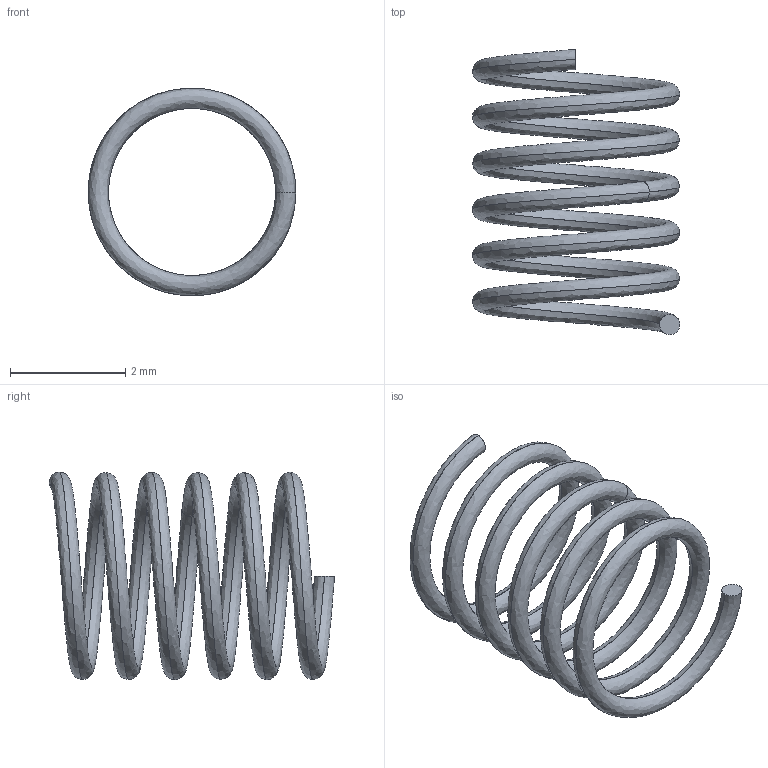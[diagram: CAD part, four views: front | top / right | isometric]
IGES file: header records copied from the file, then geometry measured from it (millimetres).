
Start section:  PTC IGES file: ma_jack_spring_prt.igs
Global section: file name: ma_jack_spring_prt.igs; native system: Pro/ENGINEER by Parametric Technology Corporation; preprocessor: 2000030; author: ECaille; organization: Unknown; date: 000803.092115; units: millimetre
Bounding box: 3.6 x 4.95 x 3.6 mm (x, y, z)
Surface area: 64.8 mm2 (no closed solid volume)
Topology: 0 solids, 0 shells, 6 faces, 32 edges, 44 vertices
Faces by surface type: bspline 6
